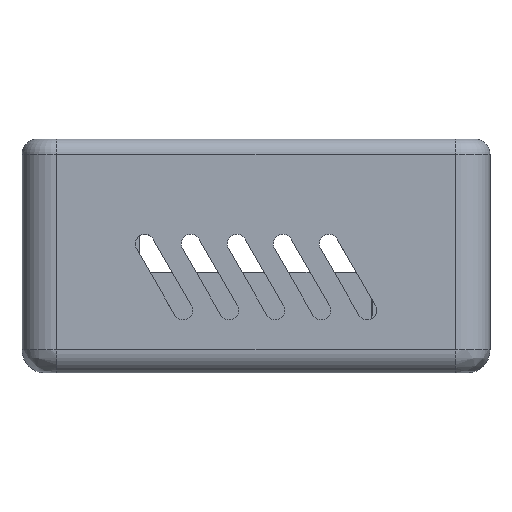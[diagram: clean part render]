
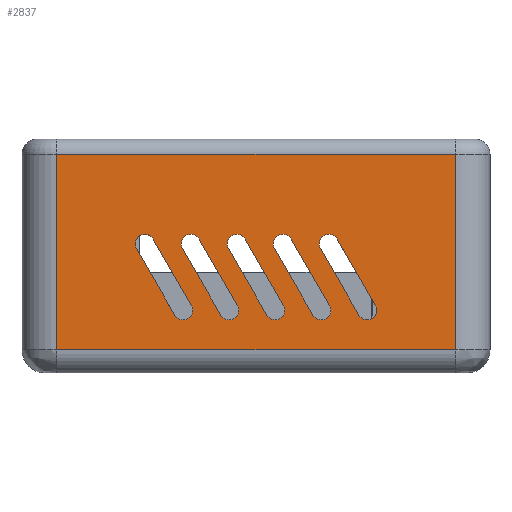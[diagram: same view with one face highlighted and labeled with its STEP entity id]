
A CAD part, left-side view. The second image highlights one B-rep face of the part: STEP entity #2837.
In plain terms, the highlighted planar face has unit normal (-1, 0, 0).
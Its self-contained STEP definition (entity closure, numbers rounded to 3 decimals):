
#32=FACE_BOUND('',#338,.T.);
#33=FACE_BOUND('',#339,.T.);
#34=FACE_BOUND('',#340,.T.);
#35=FACE_BOUND('',#341,.T.);
#36=FACE_BOUND('',#342,.T.);
#70=PLANE('',#3076);
#180=FACE_OUTER_BOUND('',#337,.T.);
#337=EDGE_LOOP('',(#2130,#2131,#2132,#2133));
#338=EDGE_LOOP('',(#2134,#2135,#2136,#2137));
#339=EDGE_LOOP('',(#2138,#2139,#2140,#2141));
#340=EDGE_LOOP('',(#2142,#2143,#2144,#2145));
#341=EDGE_LOOP('',(#2146,#2147,#2148,#2149));
#342=EDGE_LOOP('',(#2150,#2151,#2152,#2153));
#554=LINE('',#4496,#835);
#560=LINE('',#4514,#841);
#561=LINE('',#4518,#842);
#562=LINE('',#4519,#843);
#563=LINE('',#4522,#844);
#564=LINE('',#4526,#845);
#565=LINE('',#4530,#846);
#566=LINE('',#4534,#847);
#567=LINE('',#4540,#848);
#568=LINE('',#4543,#849);
#569=LINE('',#4546,#850);
#570=LINE('',#4550,#851);
#571=LINE('',#4556,#852);
#572=LINE('',#4559,#853);
#835=VECTOR('',#3562,10.);
#841=VECTOR('',#3582,10.);
#842=VECTOR('',#3587,10.);
#843=VECTOR('',#3588,10.);
#844=VECTOR('',#3589,10.);
#845=VECTOR('',#3592,10.);
#846=VECTOR('',#3595,10.);
#847=VECTOR('',#3598,10.);
#848=VECTOR('',#3603,10.);
#849=VECTOR('',#3606,10.);
#850=VECTOR('',#3607,10.);
#851=VECTOR('',#3610,10.);
#852=VECTOR('',#3615,10.);
#853=VECTOR('',#3618,10.);
#1082=CIRCLE('',#3077,1.25);
#1083=CIRCLE('',#3078,1.25);
#1084=CIRCLE('',#3079,1.25);
#1085=CIRCLE('',#3080,1.25);
#1086=CIRCLE('',#3081,1.25);
#1087=CIRCLE('',#3082,1.25);
#1088=CIRCLE('',#3083,1.25);
#1089=CIRCLE('',#3084,1.25);
#1090=CIRCLE('',#3085,1.25);
#1091=CIRCLE('',#3086,1.25);
#1280=VERTEX_POINT('',#4486);
#1282=VERTEX_POINT('',#4492);
#1288=VERTEX_POINT('',#4513);
#1289=VERTEX_POINT('',#4517);
#1290=VERTEX_POINT('',#4520);
#1291=VERTEX_POINT('',#4521);
#1292=VERTEX_POINT('',#4523);
#1293=VERTEX_POINT('',#4525);
#1294=VERTEX_POINT('',#4528);
#1295=VERTEX_POINT('',#4529);
#1296=VERTEX_POINT('',#4531);
#1297=VERTEX_POINT('',#4533);
#1298=VERTEX_POINT('',#4536);
#1299=VERTEX_POINT('',#4537);
#1300=VERTEX_POINT('',#4539);
#1301=VERTEX_POINT('',#4541);
#1302=VERTEX_POINT('',#4544);
#1303=VERTEX_POINT('',#4545);
#1304=VERTEX_POINT('',#4547);
#1305=VERTEX_POINT('',#4549);
#1306=VERTEX_POINT('',#4552);
#1307=VERTEX_POINT('',#4553);
#1308=VERTEX_POINT('',#4555);
#1309=VERTEX_POINT('',#4557);
#1603=EDGE_CURVE('',#1280,#1282,#554,.T.);
#1612=EDGE_CURVE('',#1288,#1282,#560,.T.);
#1614=EDGE_CURVE('',#1280,#1289,#561,.T.);
#1615=EDGE_CURVE('',#1288,#1289,#562,.T.);
#1616=EDGE_CURVE('',#1290,#1291,#563,.T.);
#1617=EDGE_CURVE('',#1292,#1290,#1082,.T.);
#1618=EDGE_CURVE('',#1293,#1292,#564,.T.);
#1619=EDGE_CURVE('',#1291,#1293,#1083,.T.);
#1620=EDGE_CURVE('',#1294,#1295,#565,.T.);
#1621=EDGE_CURVE('',#1296,#1294,#1084,.T.);
#1622=EDGE_CURVE('',#1297,#1296,#566,.T.);
#1623=EDGE_CURVE('',#1295,#1297,#1085,.T.);
#1624=EDGE_CURVE('',#1298,#1299,#1086,.T.);
#1625=EDGE_CURVE('',#1300,#1298,#567,.T.);
#1626=EDGE_CURVE('',#1301,#1300,#1087,.T.);
#1627=EDGE_CURVE('',#1299,#1301,#568,.T.);
#1628=EDGE_CURVE('',#1302,#1303,#569,.T.);
#1629=EDGE_CURVE('',#1304,#1302,#1088,.T.);
#1630=EDGE_CURVE('',#1305,#1304,#570,.T.);
#1631=EDGE_CURVE('',#1303,#1305,#1089,.T.);
#1632=EDGE_CURVE('',#1306,#1307,#1090,.T.);
#1633=EDGE_CURVE('',#1308,#1306,#571,.T.);
#1634=EDGE_CURVE('',#1309,#1308,#1091,.T.);
#1635=EDGE_CURVE('',#1307,#1309,#572,.T.);
#2130=ORIENTED_EDGE('',*,*,#1603,.F.);
#2131=ORIENTED_EDGE('',*,*,#1614,.T.);
#2132=ORIENTED_EDGE('',*,*,#1615,.F.);
#2133=ORIENTED_EDGE('',*,*,#1612,.T.);
#2134=ORIENTED_EDGE('',*,*,#1616,.F.);
#2135=ORIENTED_EDGE('',*,*,#1617,.F.);
#2136=ORIENTED_EDGE('',*,*,#1618,.F.);
#2137=ORIENTED_EDGE('',*,*,#1619,.F.);
#2138=ORIENTED_EDGE('',*,*,#1620,.F.);
#2139=ORIENTED_EDGE('',*,*,#1621,.F.);
#2140=ORIENTED_EDGE('',*,*,#1622,.F.);
#2141=ORIENTED_EDGE('',*,*,#1623,.F.);
#2142=ORIENTED_EDGE('',*,*,#1624,.F.);
#2143=ORIENTED_EDGE('',*,*,#1625,.F.);
#2144=ORIENTED_EDGE('',*,*,#1626,.F.);
#2145=ORIENTED_EDGE('',*,*,#1627,.F.);
#2146=ORIENTED_EDGE('',*,*,#1628,.F.);
#2147=ORIENTED_EDGE('',*,*,#1629,.F.);
#2148=ORIENTED_EDGE('',*,*,#1630,.F.);
#2149=ORIENTED_EDGE('',*,*,#1631,.F.);
#2150=ORIENTED_EDGE('',*,*,#1632,.F.);
#2151=ORIENTED_EDGE('',*,*,#1633,.F.);
#2152=ORIENTED_EDGE('',*,*,#1634,.F.);
#2153=ORIENTED_EDGE('',*,*,#1635,.F.);
#2837=ADVANCED_FACE('',(#180,#32,#33,#34,#35,#36),#70,.F.);
#3076=AXIS2_PLACEMENT_3D('',#4516,#3585,#3586);
#3077=AXIS2_PLACEMENT_3D('',#4524,#3590,#3591);
#3078=AXIS2_PLACEMENT_3D('',#4527,#3593,#3594);
#3079=AXIS2_PLACEMENT_3D('',#4532,#3596,#3597);
#3080=AXIS2_PLACEMENT_3D('',#4535,#3599,#3600);
#3081=AXIS2_PLACEMENT_3D('',#4538,#3601,#3602);
#3082=AXIS2_PLACEMENT_3D('',#4542,#3604,#3605);
#3083=AXIS2_PLACEMENT_3D('',#4548,#3608,#3609);
#3084=AXIS2_PLACEMENT_3D('',#4551,#3611,#3612);
#3085=AXIS2_PLACEMENT_3D('',#4554,#3613,#3614);
#3086=AXIS2_PLACEMENT_3D('',#4558,#3616,#3617);
#3562=DIRECTION('',(0.,-1.,0.));
#3582=DIRECTION('',(0.,0.,1.));
#3585=DIRECTION('center_axis',(1.,0.,0.));
#3586=DIRECTION('ref_axis',(0.,1.,0.));
#3587=DIRECTION('',(0.,0.,-1.));
#3588=DIRECTION('',(0.,1.,0.));
#3589=DIRECTION('',(0.,0.5,0.866));
#3590=DIRECTION('center_axis',(-1.,0.,0.));
#3591=DIRECTION('ref_axis',(0.,0.866,-0.5));
#3592=DIRECTION('',(0.,-0.5,-0.866));
#3593=DIRECTION('center_axis',(-1.,0.,0.));
#3594=DIRECTION('ref_axis',(0.,-0.866,0.5));
#3595=DIRECTION('',(0.,-0.5,-0.866));
#3596=DIRECTION('center_axis',(-1.,0.,0.));
#3597=DIRECTION('ref_axis',(0.,-0.866,0.5));
#3598=DIRECTION('',(0.,0.5,0.866));
#3599=DIRECTION('center_axis',(-1.,0.,0.));
#3600=DIRECTION('ref_axis',(0.,0.866,-0.5));
#3601=DIRECTION('center_axis',(-1.,0.,0.));
#3602=DIRECTION('ref_axis',(0.,-0.866,0.5));
#3603=DIRECTION('',(0.,0.5,0.866));
#3604=DIRECTION('center_axis',(-1.,0.,0.));
#3605=DIRECTION('ref_axis',(0.,0.866,-0.5));
#3606=DIRECTION('',(0.,-0.5,-0.866));
#3607=DIRECTION('',(0.,0.5,0.866));
#3608=DIRECTION('center_axis',(-1.,0.,0.));
#3609=DIRECTION('ref_axis',(0.,0.866,-0.5));
#3610=DIRECTION('',(0.,-0.5,-0.866));
#3611=DIRECTION('center_axis',(-1.,0.,0.));
#3612=DIRECTION('ref_axis',(0.,-0.866,0.5));
#3613=DIRECTION('center_axis',(-1.,0.,0.));
#3614=DIRECTION('ref_axis',(0.,-0.866,0.5));
#3615=DIRECTION('',(0.,0.5,0.866));
#3616=DIRECTION('center_axis',(-1.,0.,0.));
#3617=DIRECTION('ref_axis',(0.,0.866,-0.5));
#3618=DIRECTION('',(0.,-0.5,-0.866));
#4486=CARTESIAN_POINT('',(-11.213,49.,14.));
#4492=CARTESIAN_POINT('',(-11.213,-3.,14.));
#4496=CARTESIAN_POINT('',(-11.213,10.,14.));
#4513=CARTESIAN_POINT('',(-11.213,-3.,-11.5));
#4514=CARTESIAN_POINT('',(-11.213,-3.,11.));
#4516=CARTESIAN_POINT('Origin',(-11.213,-3.,11.));
#4517=CARTESIAN_POINT('',(-11.213,49.,-11.5));
#4518=CARTESIAN_POINT('',(-11.213,49.,11.));
#4519=CARTESIAN_POINT('',(-11.213,36.,-11.5));
#4520=CARTESIAN_POINT('',(-11.213,7.418,-5.705));
#4521=CARTESIAN_POINT('',(-11.213,12.418,2.955));
#4522=CARTESIAN_POINT('',(-11.213,18.732,13.892));
#4523=CARTESIAN_POINT('',(-11.213,9.583,-6.955));
#4524=CARTESIAN_POINT('Origin',(-11.213,8.5,-6.33));
#4525=CARTESIAN_POINT('',(-11.213,14.583,1.705));
#4526=CARTESIAN_POINT('',(-11.213,18.397,8.312));
#4527=CARTESIAN_POINT('Origin',(-11.213,13.5,2.33));
#4528=CARTESIAN_POINT('',(-11.213,26.583,1.705));
#4529=CARTESIAN_POINT('',(-11.213,21.583,-6.955));
#4530=CARTESIAN_POINT('',(-11.213,28.897,5.714));
#4531=CARTESIAN_POINT('',(-11.213,24.418,2.955));
#4532=CARTESIAN_POINT('Origin',(-11.213,25.5,2.33));
#4533=CARTESIAN_POINT('',(-11.213,19.418,-5.705));
#4534=CARTESIAN_POINT('',(-11.213,29.232,11.294));
#4535=CARTESIAN_POINT('Origin',(-11.213,20.5,-6.33));
#4536=CARTESIAN_POINT('',(-11.213,18.418,2.955));
#4537=CARTESIAN_POINT('',(-11.213,20.583,1.705));
#4538=CARTESIAN_POINT('Origin',(-11.213,19.5,2.33));
#4539=CARTESIAN_POINT('',(-11.213,13.418,-5.705));
#4540=CARTESIAN_POINT('',(-11.213,23.982,12.593));
#4541=CARTESIAN_POINT('',(-11.213,15.583,-6.955));
#4542=CARTESIAN_POINT('Origin',(-11.213,14.5,-6.33));
#4543=CARTESIAN_POINT('',(-11.213,23.647,7.013));
#4544=CARTESIAN_POINT('',(-11.213,31.418,-5.705));
#4545=CARTESIAN_POINT('',(-11.213,36.418,2.955));
#4546=CARTESIAN_POINT('',(-11.213,39.732,8.696));
#4547=CARTESIAN_POINT('',(-11.213,33.583,-6.955));
#4548=CARTESIAN_POINT('Origin',(-11.213,32.5,-6.33));
#4549=CARTESIAN_POINT('',(-11.213,38.583,1.705));
#4550=CARTESIAN_POINT('',(-11.213,39.397,3.116));
#4551=CARTESIAN_POINT('Origin',(-11.213,37.5,2.33));
#4552=CARTESIAN_POINT('',(-11.213,30.418,2.955));
#4553=CARTESIAN_POINT('',(-11.213,32.583,1.705));
#4554=CARTESIAN_POINT('Origin',(-11.213,31.5,2.33));
#4555=CARTESIAN_POINT('',(-11.213,25.418,-5.705));
#4556=CARTESIAN_POINT('',(-11.213,34.482,9.995));
#4557=CARTESIAN_POINT('',(-11.213,27.583,-6.955));
#4558=CARTESIAN_POINT('Origin',(-11.213,26.5,-6.33));
#4559=CARTESIAN_POINT('',(-11.213,34.147,4.415));
